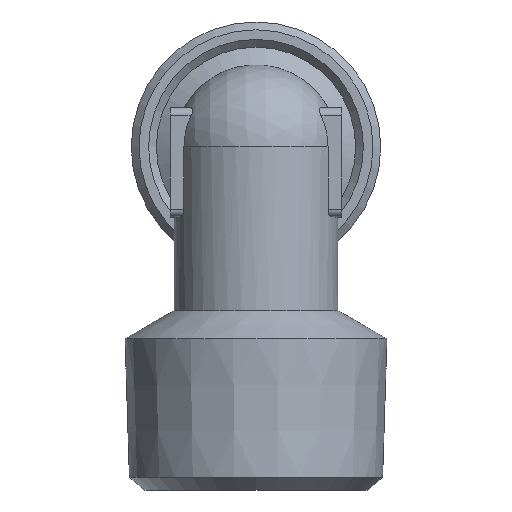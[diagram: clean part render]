
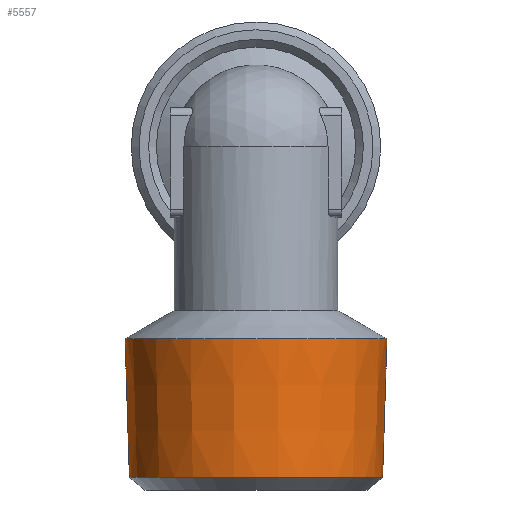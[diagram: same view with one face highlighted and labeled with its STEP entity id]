
A CAD part, left-side view. The second image highlights one B-rep face of the part: STEP entity #5557.
In plain terms, the highlighted conical face has half-angle 1.79 degrees and reference radius 8.447 mm.
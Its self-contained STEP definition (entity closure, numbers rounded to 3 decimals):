
#1682=CONICAL_SURFACE('',#5398,8.447,1.79);
#1930=ORIENTED_EDGE('',*,*,#2416,.F.);
#1931=ORIENTED_EDGE('',*,*,#2415,.F.);
#2218=CIRCLE('',#5397,8.116);
#2219=CIRCLE('',#5399,8.393);
#2295=VERTEX_POINT('',#4196);
#2296=VERTEX_POINT('',#4199);
#2415=EDGE_CURVE('',#2295,#2295,#2218,.T.);
#2416=EDGE_CURVE('',#2296,#2296,#2219,.T.);
#2567=EDGE_LOOP('',(#1930));
#2568=EDGE_LOOP('',(#1931));
#2675=FACE_BOUND('',#2567,.T.);
#2676=FACE_BOUND('',#2568,.T.);
#2838=DIRECTION('',(0.,-1.,0.));
#2839=DIRECTION('',(0.,0.,8.116));
#2840=DIRECTION('',(0.,1.,0.));
#2841=DIRECTION('',(0.,0.,1.));
#2842=DIRECTION('',(0.,1.,0.));
#2843=DIRECTION('',(0.,0.,8.393));
#4196=CARTESIAN_POINT('',(14.639,14.876,8.116));
#4197=CARTESIAN_POINT('',(14.639,14.876,0.));
#4198=CARTESIAN_POINT('',(14.639,25.465,0.));
#4199=CARTESIAN_POINT('',(14.639,23.751,8.393));
#4200=CARTESIAN_POINT('',(14.639,23.751,0.));
#5397=AXIS2_PLACEMENT_3D('',#4197,#2838,#2839);
#5398=AXIS2_PLACEMENT_3D('',#4198,#2840,#2841);
#5399=AXIS2_PLACEMENT_3D('',#4200,#2842,#2843);
#5557=ADVANCED_FACE('',(#2675,#2676),#1682,.T.);
